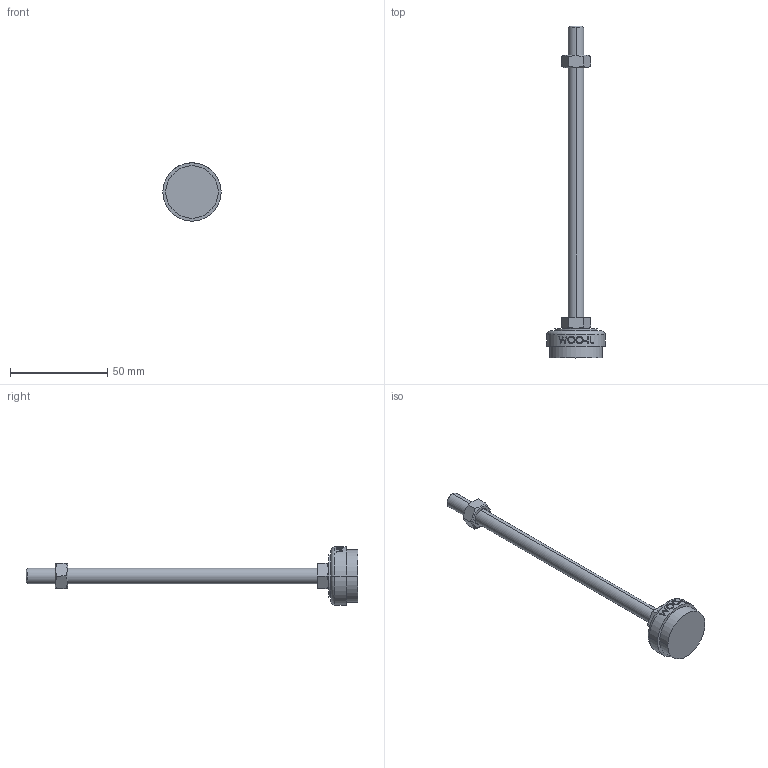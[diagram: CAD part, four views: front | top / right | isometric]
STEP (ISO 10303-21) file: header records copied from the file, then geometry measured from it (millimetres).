
FILE_DESCRIPTION (( 'STEP AP214' ), '1' );
FILE_NAME ('NS30-M8-150.step', '2021-01-11T05:41:40', ( '' ), ( '' ), 'SwSTEP 2.0', 'SolidWorks 2019', '' );
FILE_SCHEMA (( 'AUTOMOTIVE_DESIGN' ));
Length unit declared in the file: millimetre
Products named in the file (2): NS30-M8-150
Bounding box: 30 x 171 x 30 mm (x, y, z)
Volume: 18392 mm3; surface area: 7586.6 mm2
Topology: 3 solids, 3 shells, 96 faces, 223 edges, 144 vertices
Faces by surface type: plane 48, cylinder 18, bspline 16, cone 12, torus 2
Entity records: 4114 total; most frequent: CARTESIAN_POINT 1989, ORIENTED_EDGE 446, DIRECTION 381, EDGE_CURVE 223, VERTEX_POINT 144, AXIS2_PLACEMENT_3D 142, EDGE_LOOP 109, LINE 97
